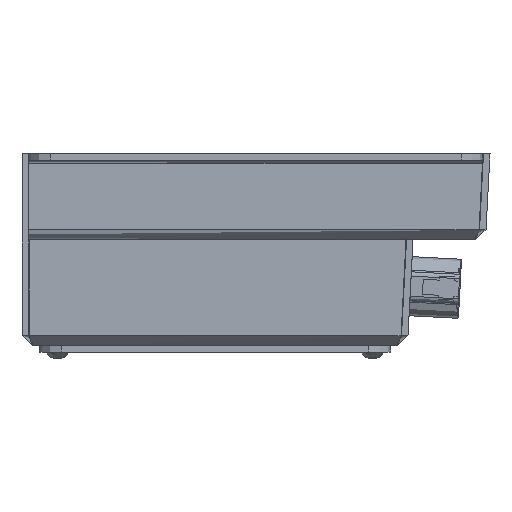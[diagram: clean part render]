
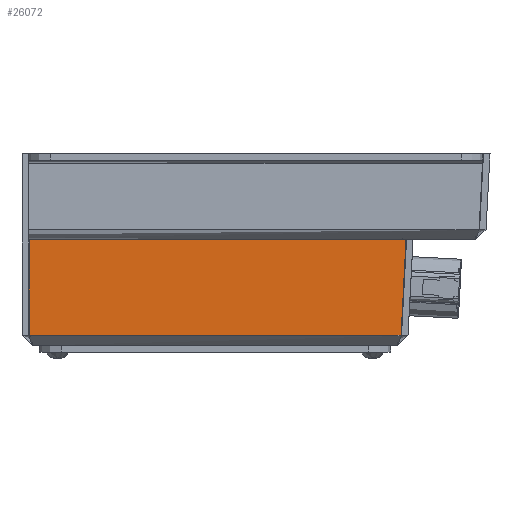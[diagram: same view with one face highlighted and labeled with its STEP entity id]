
A CAD part, left-side view. The second image highlights one B-rep face of the part: STEP entity #26072.
In plain terms, the highlighted planar face has unit normal (-1, 0, 0) as drawn and (1, 0, 0) by its records, which use the part's own axes.
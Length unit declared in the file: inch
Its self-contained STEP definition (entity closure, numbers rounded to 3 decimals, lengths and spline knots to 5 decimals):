
#1164 = DIRECTION ( 'NONE',  ( 0., 1., 0. ) ) ;
#2380 = VERTEX_POINT ( 'NONE', #54833 ) ;
#3027 = FACE_OUTER_BOUND ( 'NONE', #4757, .T. ) ;
#3488 = VERTEX_POINT ( 'NONE', #45817 ) ;
#4757 = EDGE_LOOP ( 'NONE', ( #29989, #40212, #14852, #58668 ) ) ;
#5833 = DIRECTION ( 'NONE',  ( 0., -0.052, -0.999 ) ) ;
#8356 = CARTESIAN_POINT ( 'NONE',  ( 6.04, -1.85767, 2.51782 ) ) ;
#8774 = EDGE_CURVE ( 'NONE', #78005, #38328, #80531, .T. ) ;
#10438 = CARTESIAN_POINT ( 'NONE',  ( 6.04, -1.86207, 15.64039 ) ) ;
#11355 = VECTOR ( 'NONE', #17099, 39.37008 ) ;
#14852 = ORIENTED_EDGE ( 'NONE', *, *, #29572, .T. ) ;
#17099 = DIRECTION ( 'NONE',  ( 0., -1., 0. ) ) ;
#22315 = LINE ( 'NONE', #46551, #39351 ) ;
#26072 = ADVANCED_FACE ( 'NONE', ( #3027 ), #29603, .F. ) ;
#26285 = LINE ( 'NONE', #48989, #11355 ) ;
#29572 = EDGE_CURVE ( 'NONE', #2380, #78005, #26285, .T. ) ;
#29603 = PLANE ( 'NONE',  #52930 ) ;
#29947 = EDGE_CURVE ( 'NONE', #38328, #3488, #37547, .T. ) ;
#29989 = ORIENTED_EDGE ( 'NONE', *, *, #29947, .T. ) ;
#35513 = VECTOR ( 'NONE', #1164, 39.37008 ) ;
#36020 = DIRECTION ( 'NONE',  ( 0., 0., 1. ) ) ;
#37547 = LINE ( 'NONE', #52318, #35513 ) ;
#38328 = VERTEX_POINT ( 'NONE', #39532 ) ;
#39351 = VECTOR ( 'NONE', #66077, 39.37008 ) ;
#39532 = CARTESIAN_POINT ( 'NONE',  ( 6.04, -1.92726, 1.19 ) ) ;
#40212 = ORIENTED_EDGE ( 'NONE', *, *, #78051, .T. ) ;
#45817 = CARTESIAN_POINT ( 'NONE',  ( 6.04, 3.29293, 1.19 ) ) ;
#46551 = CARTESIAN_POINT ( 'NONE',  ( 6.04, 3.29293, 15.64039 ) ) ;
#46666 = VECTOR ( 'NONE', #5833, 39.37008 ) ;
#48989 = CARTESIAN_POINT ( 'NONE',  ( 6.04, -1.86207, 2.51782 ) ) ;
#52318 = CARTESIAN_POINT ( 'NONE',  ( 6.04, -1.86207, 1.19 ) ) ;
#52930 = AXIS2_PLACEMENT_3D ( 'NONE', #10438, #74335, #36020 ) ;
#54833 = CARTESIAN_POINT ( 'NONE',  ( 6.04, 3.29293, 2.51782 ) ) ;
#58668 = ORIENTED_EDGE ( 'NONE', *, *, #8774, .T. ) ;
#66077 = DIRECTION ( 'NONE',  ( 0., 0., 1. ) ) ;
#74335 = DIRECTION ( 'NONE',  ( -1., 0., 0. ) ) ;
#76698 = CARTESIAN_POINT ( 'NONE',  ( 6.04, -1.17184, 15.60422 ) ) ;
#78005 = VERTEX_POINT ( 'NONE', #8356 ) ;
#78051 = EDGE_CURVE ( 'NONE', #3488, #2380, #22315, .T. ) ;
#80531 = LINE ( 'NONE', #76698, #46666 ) ;
